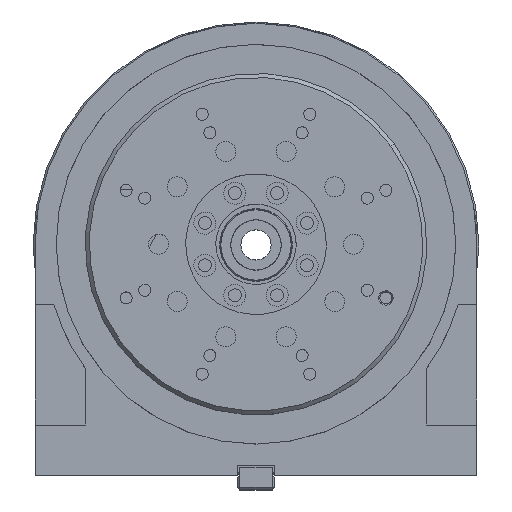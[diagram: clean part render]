
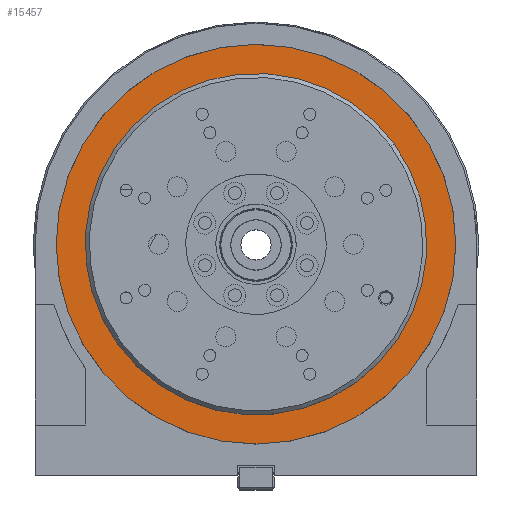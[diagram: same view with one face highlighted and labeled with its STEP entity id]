
A CAD part, top view. The second image highlights one B-rep face of the part: STEP entity #15457.
In plain terms, the highlighted planar face has unit normal (0, 0, 1).
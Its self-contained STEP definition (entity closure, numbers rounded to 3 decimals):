
#500 = DIRECTION ( 'NONE',  ( 0., 0., -1. ) ) ;
#507 = DIRECTION ( 'NONE',  ( -1., -0.009, 0. ) ) ;
#671 = AXIS2_PLACEMENT_3D ( 'NONE', #3964, #13296, #4034 ) ;
#784 = FACE_OUTER_BOUND ( 'NONE', #14850, .T. ) ;
#1075 = AXIS2_PLACEMENT_3D ( 'NONE', #8066, #10359, #507 ) ;
#1725 = CARTESIAN_POINT ( 'NONE',  ( 99.496, 0.869, 206.5 ) ) ;
#1809 = ORIENTED_EDGE ( 'NONE', *, *, #7573, .F. ) ;
#1944 = ORIENTED_EDGE ( 'NONE', *, *, #11750, .F. ) ;
#1984 = VERTEX_POINT ( 'NONE', #6877 ) ;
#2234 = ORIENTED_EDGE ( 'NONE', *, *, #8441, .T. ) ;
#3365 = CIRCLE ( 'NONE', #1075, 99.5 ) ;
#3964 = CARTESIAN_POINT ( 'NONE',  ( 0., 0., 206.5 ) ) ;
#4034 = DIRECTION ( 'NONE',  ( -1., -0.009, 0. ) ) ;
#4377 = CARTESIAN_POINT ( 'NONE',  ( -0.673, 76.997, 206.5 ) ) ;
#4468 = AXIS2_PLACEMENT_3D ( 'NONE', #5152, #7381, #4999 ) ;
#4999 = DIRECTION ( 'NONE',  ( -1., -0.009, 0. ) ) ;
#5152 = CARTESIAN_POINT ( 'NONE',  ( 0., 0., 206.5 ) ) ;
#6610 = EDGE_CURVE ( 'NONE', #12696, #8395, #11904, .T. ) ;
#6877 = CARTESIAN_POINT ( 'NONE',  ( -99.496, -0.869, 206.5 ) ) ;
#7046 = CIRCLE ( 'NONE', #671, 77. ) ;
#7381 = DIRECTION ( 'NONE',  ( 0., 0., -1. ) ) ;
#7573 = EDGE_CURVE ( 'NONE', #1984, #13076, #8553, .T. ) ;
#8066 = CARTESIAN_POINT ( 'NONE',  ( 0., 0., 206.5 ) ) ;
#8395 = VERTEX_POINT ( 'NONE', #12382 ) ;
#8441 = EDGE_CURVE ( 'NONE', #8395, #12696, #7046, .T. ) ;
#8553 = CIRCLE ( 'NONE', #4468, 99.5 ) ;
#10359 = DIRECTION ( 'NONE',  ( 0., 0., -1. ) ) ;
#10405 = CARTESIAN_POINT ( 'NONE',  ( -76.997, -0.673, 206.5 ) ) ;
#10418 = DIRECTION ( 'NONE',  ( -1., -0.009, 0. ) ) ;
#10596 = EDGE_LOOP ( 'NONE', ( #15527, #2234 ) ) ;
#10731 = DIRECTION ( 'NONE',  ( 0., 0., 1. ) ) ;
#11393 = CARTESIAN_POINT ( 'NONE',  ( 0., 0., 206.5 ) ) ;
#11628 = AXIS2_PLACEMENT_3D ( 'NONE', #4377, #10731, #15590 ) ;
#11672 = FACE_BOUND ( 'NONE', #10596, .T. ) ;
#11750 = EDGE_CURVE ( 'NONE', #13076, #1984, #3365, .T. ) ;
#11904 = CIRCLE ( 'NONE', #13928, 77. ) ;
#12382 = CARTESIAN_POINT ( 'NONE',  ( 76.997, 0.673, 206.5 ) ) ;
#12696 = VERTEX_POINT ( 'NONE', #10405 ) ;
#13076 = VERTEX_POINT ( 'NONE', #1725 ) ;
#13296 = DIRECTION ( 'NONE',  ( 0., 0., -1. ) ) ;
#13928 = AXIS2_PLACEMENT_3D ( 'NONE', #11393, #500, #10418 ) ;
#14141 = PLANE ( 'NONE',  #11628 ) ;
#14850 = EDGE_LOOP ( 'NONE', ( #1809, #1944 ) ) ;
#15457 = ADVANCED_FACE ( 'NONE', ( #11672, #784 ), #14141, .T. ) ;
#15527 = ORIENTED_EDGE ( 'NONE', *, *, #6610, .T. ) ;
#15590 = DIRECTION ( 'NONE',  ( 1., 0.009, 0. ) ) ;
